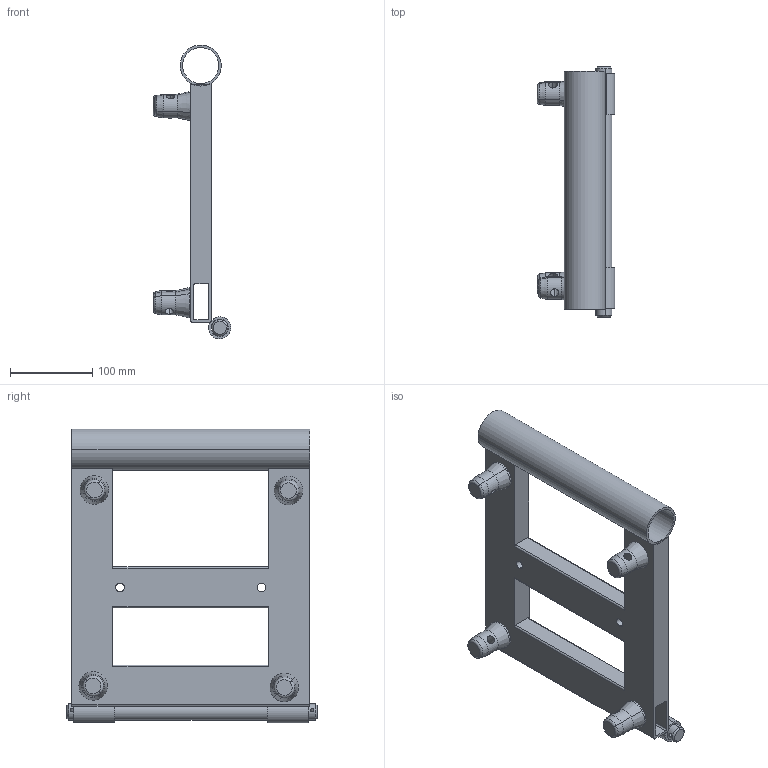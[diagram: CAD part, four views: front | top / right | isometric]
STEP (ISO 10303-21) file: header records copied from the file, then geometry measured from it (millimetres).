
FILE_DESCRIPTION (( 'STEP AP203' ), '1' );
FILE_NAME ('ANGV259-002-STEP.STEP', '2009-10-26T12:53:25', ( 'CEDIA' ), ( 'CEDIA INDUSTRIE' ), 'SwSTEP 2.0', 'SolidWorks 2009', '' );
FILE_SCHEMA (( 'CONFIG_CONTROL_DESIGN' ));
Length unit declared in the file: millimetre
Products named in the file (6): DEMImoyeu conique ASD; ANGV259-002-STEP; ANGV259-002; ANGV259-001_REPA; ANGV259-002_REPB; ANGV259-003
Assembly tree (9 placements, depth 3):
  ANGV259-002-STEP
    DEMImoyeu conique ASD  x4
    ANGV259-002
      ANGV259-002_REPB  x2
      ANGV259-001_REPA
    ANGV259-003
Bounding box: 94.64 x 305 x 358.23 mm (x, y, z)
Volume: 1303650 mm3; surface area: 326301.4 mm2
Topology: 9 solids, 9 shells, 132 faces, 306 edges, 192 vertices
Faces by surface type: cylinder 62, plane 34, cone 28, torus 8
Entity records: 3711 total; most frequent: CARTESIAN_POINT 824, DIRECTION 486, ORIENTED_EDGE 420, EDGE_CURVE 210, AXIS2_PLACEMENT_3D 191, VERTEX_POINT 136, EDGE_LOOP 114, VECTOR 104
